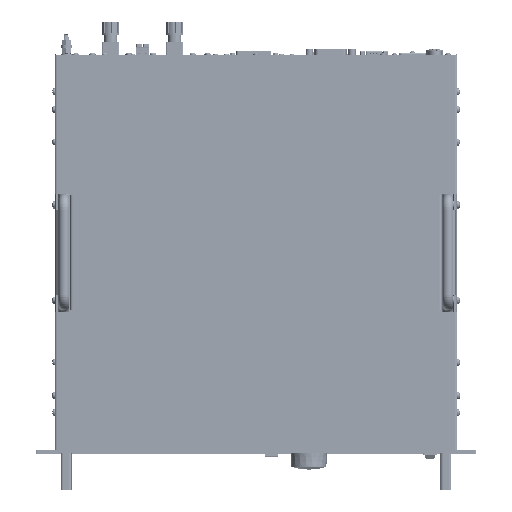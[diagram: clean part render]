
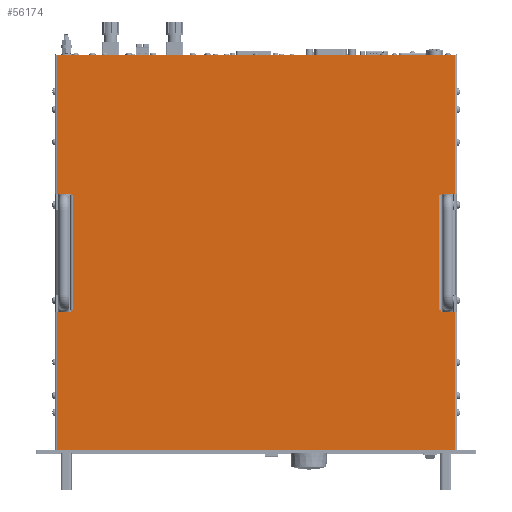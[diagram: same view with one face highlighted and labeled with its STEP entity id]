
A CAD part, top view. The second image highlights one B-rep face of the part: STEP entity #56174.
In plain terms, the highlighted planar face has unit normal (0, 0, 1).
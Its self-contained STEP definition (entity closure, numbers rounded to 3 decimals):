
#56174=ADVANCED_FACE('',(#115568),#115569,.F.);
#115568=FACE_OUTER_BOUND('',#211749,.T.);
#115569=PLANE('',#211750);
#211749=EDGE_LOOP('',(#368721,#368722,#368723,#368724,#368725,#368726,#368727,#368728,#368729,#368730,#368731,#368732,#368733,#368734,#368735,#368736,#368737,#368738,#368739,#368740));
#211750=AXIS2_PLACEMENT_3D('',#368741,#368742,#368743);
#368721=ORIENTED_EDGE('',*,*,#452158,.T.);
#368722=ORIENTED_EDGE('',*,*,#452178,.F.);
#368723=ORIENTED_EDGE('',*,*,#452179,.F.);
#368724=ORIENTED_EDGE('',*,*,#451822,.F.);
#368725=ORIENTED_EDGE('',*,*,#452144,.F.);
#368726=ORIENTED_EDGE('',*,*,#451807,.F.);
#368727=ORIENTED_EDGE('',*,*,#452133,.F.);
#368728=ORIENTED_EDGE('',*,*,#452180,.F.);
#368729=ORIENTED_EDGE('',*,*,#452176,.T.);
#368730=ORIENTED_EDGE('',*,*,#452171,.F.);
#368731=ORIENTED_EDGE('',*,*,#452168,.T.);
#368732=ORIENTED_EDGE('',*,*,#452181,.F.);
#368733=ORIENTED_EDGE('',*,*,#452109,.F.);
#368734=ORIENTED_EDGE('',*,*,#451797,.F.);
#368735=ORIENTED_EDGE('',*,*,#452098,.F.);
#368736=ORIENTED_EDGE('',*,*,#451817,.F.);
#368737=ORIENTED_EDGE('',*,*,#452182,.F.);
#368738=ORIENTED_EDGE('',*,*,#452183,.F.);
#368739=ORIENTED_EDGE('',*,*,#452155,.T.);
#368740=ORIENTED_EDGE('',*,*,#452163,.T.);
#368741=CARTESIAN_POINT('',(239.8,220.125,86.465));
#368742=DIRECTION('',(0.,0.,-1.0));
#368743=DIRECTION('',(1.0,0.,0.));
#451797=EDGE_CURVE('',#544181,#544183,#544184,.T.);
#451807=EDGE_CURVE('',#544199,#544201,#544202,.T.);
#451817=EDGE_CURVE('',#544217,#544219,#544220,.T.);
#451822=EDGE_CURVE('',#544226,#544228,#544229,.T.);
#452098=EDGE_CURVE('',#544219,#544181,#544659,.T.);
#452109=EDGE_CURVE('',#544183,#544674,#544675,.T.);
#452133=EDGE_CURVE('',#544707,#544199,#544709,.T.);
#452144=EDGE_CURVE('',#544201,#544226,#544724,.T.);
#452155=EDGE_CURVE('',#544735,#544738,#544740,.T.);
#452158=EDGE_CURVE('',#544745,#544742,#544746,.T.);
#452163=EDGE_CURVE('',#544738,#544745,#544751,.T.);
#452168=EDGE_CURVE('',#544757,#544755,#544758,.T.);
#452171=EDGE_CURVE('',#544757,#544761,#544762,.T.);
#452176=EDGE_CURVE('',#544767,#544761,#544769,.T.);
#452178=EDGE_CURVE('',#544771,#544742,#544772,.T.);
#452179=EDGE_CURVE('',#544228,#544771,#544773,.T.);
#452180=EDGE_CURVE('',#544767,#544707,#544774,.T.);
#452181=EDGE_CURVE('',#544674,#544755,#544775,.T.);
#452182=EDGE_CURVE('',#544776,#544217,#544777,.T.);
#452183=EDGE_CURVE('',#544735,#544776,#544778,.T.);
#544181=VERTEX_POINT('',#676194);
#544183=VERTEX_POINT('',#676196);
#544184=LINE('',#676197,#676198);
#544199=VERTEX_POINT('',#676216);
#544201=VERTEX_POINT('',#676218);
#544202=LINE('',#676219,#676220);
#544217=VERTEX_POINT('',#676238);
#544219=VERTEX_POINT('',#676240);
#544220=LINE('',#676241,#676242);
#544226=VERTEX_POINT('',#676249);
#544228=VERTEX_POINT('',#676251);
#544229=LINE('',#676252,#676253);
#544659=LINE('',#676804,#676805);
#544674=VERTEX_POINT('',#676825);
#544675=LINE('',#676826,#676827);
#544707=VERTEX_POINT('',#676873);
#544709=LINE('',#676876,#676877);
#544724=LINE('',#676897,#676898);
#544735=VERTEX_POINT('',#676913);
#544738=VERTEX_POINT('',#676917);
#544740=LINE('',#676919,#676920);
#544742=VERTEX_POINT('',#676922);
#544745=VERTEX_POINT('',#676926);
#544746=LINE('',#676927,#676928);
#544751=LINE('',#676933,#676934);
#544755=VERTEX_POINT('',#676939);
#544757=VERTEX_POINT('',#676942);
#544758=LINE('',#676943,#676944);
#544761=VERTEX_POINT('',#676947);
#544762=LINE('',#676948,#676949);
#544767=VERTEX_POINT('',#676954);
#544769=LINE('',#676957,#676958);
#544771=VERTEX_POINT('',#676960);
#544772=LINE('',#676961,#676962);
#544773=LINE('',#676963,#676964);
#544774=LINE('',#676965,#676966);
#544775=LINE('',#676967,#676968);
#544776=VERTEX_POINT('',#676969);
#544777=LINE('',#676970,#676971);
#544778=LINE('',#676972,#676973);
#676194=CARTESIAN_POINT('',(22.123,3.5,86.465));
#676196=CARTESIAN_POINT('',(22.123,155.5,86.465));
#676197=CARTESIAN_POINT('',(22.123,149.813,86.465));
#676198=VECTOR('',#767076,1.0);
#676216=CARTESIAN_POINT('',(22.123,284.75,86.465));
#676218=CARTESIAN_POINT('',(22.123,436.75,86.465));
#676219=CARTESIAN_POINT('',(22.123,290.438,86.465));
#676220=VECTOR('',#767092,1.0);
#676238=CARTESIAN_POINT('',(457.477,155.5,86.465));
#676240=CARTESIAN_POINT('',(457.477,3.5,86.465));
#676241=CARTESIAN_POINT('',(457.477,149.813,86.465));
#676242=VECTOR('',#767108,1.0);
#676249=CARTESIAN_POINT('',(457.477,436.75,86.465));
#676251=CARTESIAN_POINT('',(457.477,284.75,86.465));
#676252=CARTESIAN_POINT('',(457.477,290.438,86.465));
#676253=VECTOR('',#767116,1.0);
#676804=CARTESIAN_POINT('',(460.227,3.5,86.465));
#676805=VECTOR('',#767502,1.0);
#676825=CARTESIAN_POINT('',(37.373,155.5,86.465));
#676826=CARTESIAN_POINT('',(19.373,155.5,86.465));
#676827=VECTOR('',#767520,1.0);
#676873=CARTESIAN_POINT('',(37.373,284.75,86.465));
#676876=CARTESIAN_POINT('',(37.373,284.75,86.465));
#676877=VECTOR('',#767548,1.0);
#676897=CARTESIAN_POINT('',(19.373,436.75,86.465));
#676898=VECTOR('',#767566,1.0);
#676913=CARTESIAN_POINT('',(442.227,157.5,86.465));
#676917=CARTESIAN_POINT('',(440.477,157.5,86.465));
#676919=CARTESIAN_POINT('',(341.093,157.5,86.465));
#676920=VECTOR('',#767578,1.0);
#676922=CARTESIAN_POINT('',(442.227,282.75,86.465));
#676926=CARTESIAN_POINT('',(440.477,282.75,86.465));
#676927=CARTESIAN_POINT('',(341.093,282.75,86.465));
#676928=VECTOR('',#767580,1.0);
#676933=CARTESIAN_POINT('',(440.477,220.125,86.465));
#676934=VECTOR('',#767590,1.0);
#676939=CARTESIAN_POINT('',(37.373,157.5,86.465));
#676942=CARTESIAN_POINT('',(39.123,157.5,86.465));
#676943=CARTESIAN_POINT('',(138.507,157.5,86.465));
#676944=VECTOR('',#767593,1.0);
#676947=CARTESIAN_POINT('',(39.123,282.75,86.465));
#676948=CARTESIAN_POINT('',(39.123,220.125,86.465));
#676949=VECTOR('',#767597,1.0);
#676954=CARTESIAN_POINT('',(37.373,282.75,86.465));
#676957=CARTESIAN_POINT('',(138.507,282.75,86.465));
#676958=VECTOR('',#767605,1.0);
#676960=CARTESIAN_POINT('',(442.227,284.75,86.465));
#676961=CARTESIAN_POINT('',(442.227,284.75,86.465));
#676962=VECTOR('',#767606,1.0);
#676963=CARTESIAN_POINT('',(460.227,284.75,86.465));
#676964=VECTOR('',#767607,1.0);
#676965=CARTESIAN_POINT('',(37.373,282.75,86.465));
#676966=VECTOR('',#767608,1.0);
#676967=CARTESIAN_POINT('',(37.373,155.5,86.465));
#676968=VECTOR('',#767609,1.0);
#676969=CARTESIAN_POINT('',(442.227,155.5,86.465));
#676970=CARTESIAN_POINT('',(442.227,155.5,86.465));
#676971=VECTOR('',#767610,1.0);
#676972=CARTESIAN_POINT('',(442.227,157.5,86.465));
#676973=VECTOR('',#767611,1.0);
#767076=DIRECTION('',(0.0,1.0,0.));
#767092=DIRECTION('',(0.0,1.0,0.));
#767108=DIRECTION('',(0.0,-1.0,0.));
#767116=DIRECTION('',(0.0,-1.0,0.));
#767502=DIRECTION('',(-1.0,0.0,0.));
#767520=DIRECTION('',(1.0,0.0,0.0));
#767548=DIRECTION('',(-1.0,0.0,0.0));
#767566=DIRECTION('',(1.0,0.0,0.0));
#767578=DIRECTION('',(-1.0,0.0,0.0));
#767580=DIRECTION('',(1.0,0.0,0.0));
#767590=DIRECTION('',(0.0,1.0,0.));
#767593=DIRECTION('',(-1.0,0.0,0.0));
#767597=DIRECTION('',(0.0,1.0,0.));
#767605=DIRECTION('',(1.0,0.0,0.0));
#767606=DIRECTION('',(0.0,-1.0,0.));
#767607=DIRECTION('',(-1.0,0.0,0.0));
#767608=DIRECTION('',(0.0,1.0,0.));
#767609=DIRECTION('',(0.0,1.0,0.));
#767610=DIRECTION('',(1.0,0.0,0.0));
#767611=DIRECTION('',(0.0,-1.0,0.));
